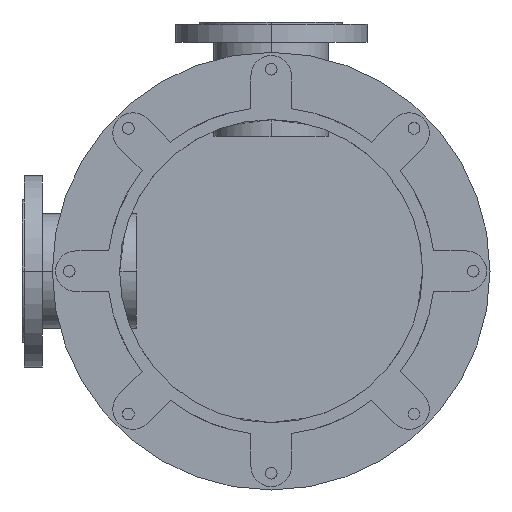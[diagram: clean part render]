
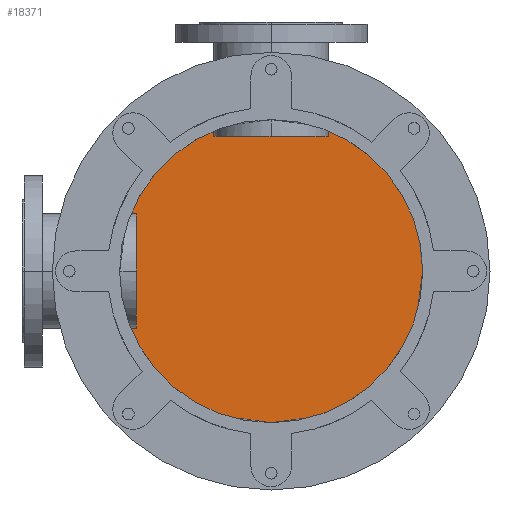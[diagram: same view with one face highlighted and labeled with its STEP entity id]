
A CAD part, front view. The second image highlights one B-rep face of the part: STEP entity #18371.
In plain terms, the highlighted planar face has unit normal (0, -1, 0).
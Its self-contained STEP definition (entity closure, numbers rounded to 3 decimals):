
#2911=CARTESIAN_POINT('',(0.,836.,0.));
#2912=DIRECTION('',(0.,-1.,0.));
#2913=DIRECTION('',(0.,0.,1.));
#2914=AXIS2_PLACEMENT_3D('',#2911,#2912,#2913);
#3163=CARTESIAN_POINT('',(0.,836.,0.));
#3164=DIRECTION('',(0.,-1.,0.));
#3165=DIRECTION('',(0.,0.,-1.));
#3166=AXIS2_PLACEMENT_3D('',#3163,#3164,#3165);
#9205=CARTESIAN_POINT('',(0.,836.,240.));
#9206=CARTESIAN_POINT('',(0.,836.,-240.));
#9207=VERTEX_POINT('',#9205);
#9208=VERTEX_POINT('',#9206);
#18362=CARTESIAN_POINT('',(0.,836.,0.));
#18363=DIRECTION('',(0.,1.,0.));
#18364=DIRECTION('',(0.,0.,-1.));
#18365=AXIS2_PLACEMENT_3D('',#18362,#18363,#18364);
#18366=PLANE('',#18365);
#18367=ORIENTED_EDGE('',*,*,#14362,.F.);
#18368=ORIENTED_EDGE('',*,*,#14532,.F.);
#18369=EDGE_LOOP('',(#18367,#18368));
#18370=FACE_OUTER_BOUND('',#18369,.F.);
#18371=ADVANCED_FACE('',(#18370),#18366,.F.);
#2915=CIRCLE('',#2914,240.);
#3167=CIRCLE('',#3166,240.);
#14362=EDGE_CURVE('',#9207,#9208,#2915,.T.);
#14532=EDGE_CURVE('',#9208,#9207,#3167,.T.);
